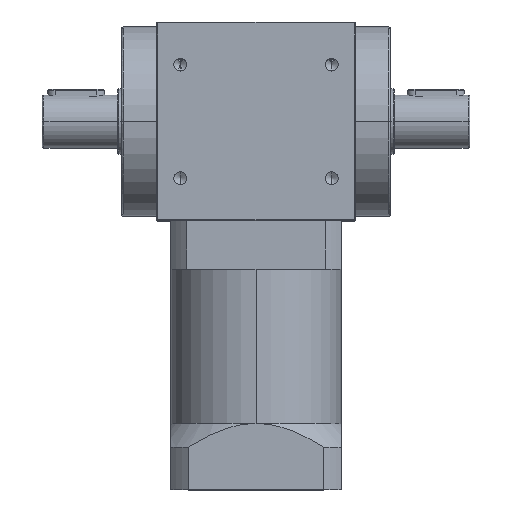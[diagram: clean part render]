
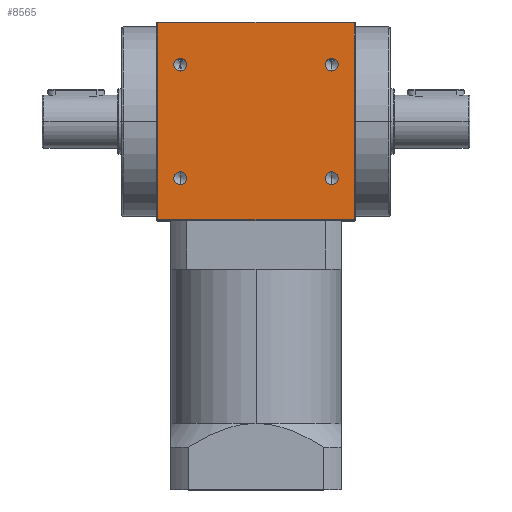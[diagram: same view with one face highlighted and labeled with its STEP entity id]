
A CAD part, top view. The second image highlights one B-rep face of the part: STEP entity #8565.
In plain terms, the highlighted planar face has unit normal (0, 0, 1).
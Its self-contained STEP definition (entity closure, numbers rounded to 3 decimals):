
#14 = FACE_BOUND ( 'NONE', #5620, .T. ) ;
#65 = VERTEX_POINT ( 'NONE', #6056 ) ;
#110 = AXIS2_PLACEMENT_3D ( 'NONE', #828, #7997, #3032 ) ;
#111 = DIRECTION ( 'NONE',  ( 0., 0., 1. ) ) ;
#211 = AXIS2_PLACEMENT_3D ( 'NONE', #7085, #8001, #8653 ) ;
#323 = ORIENTED_EDGE ( 'NONE', *, *, #3947, .F. ) ;
#457 = AXIS2_PLACEMENT_3D ( 'NONE', #8514, #8509, #8506 ) ;
#796 = FACE_BOUND ( 'NONE', #6690, .T. ) ;
#828 = CARTESIAN_POINT ( 'NONE',  ( 40., 30., 52.5 ) ) ;
#1137 = ORIENTED_EDGE ( 'NONE', *, *, #5233, .F. ) ;
#1216 = ORIENTED_EDGE ( 'NONE', *, *, #5389, .T. ) ;
#1221 = ORIENTED_EDGE ( 'NONE', *, *, #4442, .F. ) ;
#1350 = CARTESIAN_POINT ( 'NONE',  ( -52., -52., 52.5 ) ) ;
#1511 = LINE ( 'NONE', #4908, #2515 ) ;
#1826 = CARTESIAN_POINT ( 'NONE',  ( 40., 30., 52.5 ) ) ;
#1879 = VERTEX_POINT ( 'NONE', #3410 ) ;
#1944 = CIRCLE ( 'NONE', #457, 3.4 ) ;
#2003 = VERTEX_POINT ( 'NONE', #3345 ) ;
#2048 = CIRCLE ( 'NONE', #2059, 3.4 ) ;
#2059 = AXIS2_PLACEMENT_3D ( 'NONE', #7149, #8245, #8012 ) ;
#2060 = AXIS2_PLACEMENT_3D ( 'NONE', #8215, #111, #6540 ) ;
#2070 = AXIS2_PLACEMENT_3D ( 'NONE', #1826, #2321, #3091 ) ;
#2071 = AXIS2_PLACEMENT_3D ( 'NONE', #8394, #8544, #7033 ) ;
#2321 = DIRECTION ( 'NONE',  ( 0., 0., 1. ) ) ;
#2442 = ORIENTED_EDGE ( 'NONE', *, *, #4243, .F. ) ;
#2515 = VECTOR ( 'NONE', #4867, 1000. ) ;
#2543 = ORIENTED_EDGE ( 'NONE', *, *, #5235, .F. ) ;
#2590 = CARTESIAN_POINT ( 'NONE',  ( -40., 26.6, 52.5 ) ) ;
#2708 = DIRECTION ( 'NONE',  ( -1., 0., 0. ) ) ;
#2716 = DIRECTION ( 'NONE',  ( 0., 0., -1. ) ) ;
#2718 = CARTESIAN_POINT ( 'NONE',  ( 0., 0., 52.5 ) ) ;
#2807 = CIRCLE ( 'NONE', #2071, 3.4 ) ;
#2821 = PLANE ( 'NONE',  #4232 ) ;
#2848 = CIRCLE ( 'NONE', #2070, 3.4 ) ;
#2976 = LINE ( 'NONE', #8334, #3018 ) ;
#3018 = VECTOR ( 'NONE', #8325, 1000. ) ;
#3032 = DIRECTION ( 'NONE',  ( 0., -1., 0. ) ) ;
#3080 = ORIENTED_EDGE ( 'NONE', *, *, #5223, .F. ) ;
#3091 = DIRECTION ( 'NONE',  ( 0., -1., 0. ) ) ;
#3304 = VERTEX_POINT ( 'NONE', #1350 ) ;
#3345 = CARTESIAN_POINT ( 'NONE',  ( 40., 33.4, 52.5 ) ) ;
#3410 = CARTESIAN_POINT ( 'NONE',  ( 40., -33.4, 52.5 ) ) ;
#3469 = VECTOR ( 'NONE', #8586, 1000. ) ;
#3601 = LINE ( 'NONE', #8577, #3469 ) ;
#3882 = AXIS2_PLACEMENT_3D ( 'NONE', #6626, #6614, #6611 ) ;
#3947 = EDGE_CURVE ( 'NONE', #65, #1879, #1944, .T. ) ;
#4173 = CIRCLE ( 'NONE', #2060, 3.4 ) ;
#4232 = AXIS2_PLACEMENT_3D ( 'NONE', #2718, #2716, #2708 ) ;
#4243 = EDGE_CURVE ( 'NONE', #5472, #7730, #7284, .T. ) ;
#4290 = ORIENTED_EDGE ( 'NONE', *, *, #5247, .F. ) ;
#4442 = EDGE_CURVE ( 'NONE', #3304, #5024, #1511, .T. ) ;
#4454 = VERTEX_POINT ( 'NONE', #4831 ) ;
#4673 = ORIENTED_EDGE ( 'NONE', *, *, #5231, .F. ) ;
#4831 = CARTESIAN_POINT ( 'NONE',  ( 40., 26.6, 52.5 ) ) ;
#4867 = DIRECTION ( 'NONE',  ( 0., 1., 0. ) ) ;
#4908 = CARTESIAN_POINT ( 'NONE',  ( -52., 0., 52.5 ) ) ;
#5024 = VERTEX_POINT ( 'NONE', #6930 ) ;
#5223 = EDGE_CURVE ( 'NONE', #5024, #7699, #2976, .T. ) ;
#5225 = EDGE_CURVE ( 'NONE', #8584, #5538, #2807, .T. ) ;
#5231 = EDGE_CURVE ( 'NONE', #4454, #2003, #2848, .T. ) ;
#5233 = EDGE_CURVE ( 'NONE', #7730, #5472, #4173, .T. ) ;
#5235 = EDGE_CURVE ( 'NONE', #1879, #65, #2048, .T. ) ;
#5247 = EDGE_CURVE ( 'NONE', #7699, #6672, #3601, .T. ) ;
#5339 = ORIENTED_EDGE ( 'NONE', *, *, #5225, .F. ) ;
#5389 = EDGE_CURVE ( 'NONE', #3304, #6672, #5821, .T. ) ;
#5443 = EDGE_LOOP ( 'NONE', ( #4673, #6447 ) ) ;
#5472 = VERTEX_POINT ( 'NONE', #6624 ) ;
#5538 = VERTEX_POINT ( 'NONE', #6091 ) ;
#5620 = EDGE_LOOP ( 'NONE', ( #5339, #8630 ) ) ;
#5821 = LINE ( 'NONE', #6908, #6079 ) ;
#5962 = EDGE_LOOP ( 'NONE', ( #1137, #2442 ) ) ;
#5974 = EDGE_LOOP ( 'NONE', ( #1216, #4290, #3080, #1221 ) ) ;
#6056 = CARTESIAN_POINT ( 'NONE',  ( 40., -26.6, 52.5 ) ) ;
#6079 = VECTOR ( 'NONE', #7002, 1000. ) ;
#6091 = CARTESIAN_POINT ( 'NONE',  ( -40., 33.4, 52.5 ) ) ;
#6230 = EDGE_CURVE ( 'NONE', #5538, #8584, #7881, .T. ) ;
#6286 = EDGE_CURVE ( 'NONE', #2003, #4454, #7336, .T. ) ;
#6447 = ORIENTED_EDGE ( 'NONE', *, *, #6286, .F. ) ;
#6540 = DIRECTION ( 'NONE',  ( 0., -1., 0. ) ) ;
#6611 = DIRECTION ( 'NONE',  ( 0., -1., 0. ) ) ;
#6614 = DIRECTION ( 'NONE',  ( 0., 0., 1. ) ) ;
#6624 = CARTESIAN_POINT ( 'NONE',  ( -40., -26.6, 52.5 ) ) ;
#6626 = CARTESIAN_POINT ( 'NONE',  ( -40., -30., 52.5 ) ) ;
#6672 = VERTEX_POINT ( 'NONE', #7696 ) ;
#6690 = EDGE_LOOP ( 'NONE', ( #2543, #323 ) ) ;
#6816 = CARTESIAN_POINT ( 'NONE',  ( -40., -33.4, 52.5 ) ) ;
#6908 = CARTESIAN_POINT ( 'NONE',  ( 0., -52., 52.5 ) ) ;
#6919 = CARTESIAN_POINT ( 'NONE',  ( 52., 52., 52.5 ) ) ;
#6930 = CARTESIAN_POINT ( 'NONE',  ( -52., 52., 52.5 ) ) ;
#7002 = DIRECTION ( 'NONE',  ( 1., 0., 0. ) ) ;
#7033 = DIRECTION ( 'NONE',  ( 0., -1., 0. ) ) ;
#7085 = CARTESIAN_POINT ( 'NONE',  ( -40., 30., 52.5 ) ) ;
#7149 = CARTESIAN_POINT ( 'NONE',  ( 40., -30., 52.5 ) ) ;
#7256 = FACE_BOUND ( 'NONE', #5443, .T. ) ;
#7284 = CIRCLE ( 'NONE', #3882, 3.4 ) ;
#7336 = CIRCLE ( 'NONE', #110, 3.4 ) ;
#7407 = FACE_BOUND ( 'NONE', #5962, .T. ) ;
#7696 = CARTESIAN_POINT ( 'NONE',  ( 52., -52., 52.5 ) ) ;
#7699 = VERTEX_POINT ( 'NONE', #6919 ) ;
#7730 = VERTEX_POINT ( 'NONE', #6816 ) ;
#7881 = CIRCLE ( 'NONE', #211, 3.4 ) ;
#7989 = FACE_OUTER_BOUND ( 'NONE', #5974, .T. ) ;
#7997 = DIRECTION ( 'NONE',  ( 0., 0., 1. ) ) ;
#8001 = DIRECTION ( 'NONE',  ( 0., 0., 1. ) ) ;
#8012 = DIRECTION ( 'NONE',  ( 0., -1., 0. ) ) ;
#8215 = CARTESIAN_POINT ( 'NONE',  ( -40., -30., 52.5 ) ) ;
#8245 = DIRECTION ( 'NONE',  ( 0., 0., 1. ) ) ;
#8325 = DIRECTION ( 'NONE',  ( 1., 0., 0. ) ) ;
#8334 = CARTESIAN_POINT ( 'NONE',  ( 0., 52., 52.5 ) ) ;
#8394 = CARTESIAN_POINT ( 'NONE',  ( -40., 30., 52.5 ) ) ;
#8506 = DIRECTION ( 'NONE',  ( 0., -1., 0. ) ) ;
#8509 = DIRECTION ( 'NONE',  ( 0., 0., 1. ) ) ;
#8514 = CARTESIAN_POINT ( 'NONE',  ( 40., -30., 52.5 ) ) ;
#8544 = DIRECTION ( 'NONE',  ( 0., 0., 1. ) ) ;
#8565 = ADVANCED_FACE ( 'NONE', ( #796, #7407, #7256, #14, #7989 ), #2821, .F. ) ;
#8577 = CARTESIAN_POINT ( 'NONE',  ( 52., 0., 52.5 ) ) ;
#8584 = VERTEX_POINT ( 'NONE', #2590 ) ;
#8586 = DIRECTION ( 'NONE',  ( 0., -1., 0. ) ) ;
#8630 = ORIENTED_EDGE ( 'NONE', *, *, #6230, .F. ) ;
#8653 = DIRECTION ( 'NONE',  ( 0., -1., 0. ) ) ;
